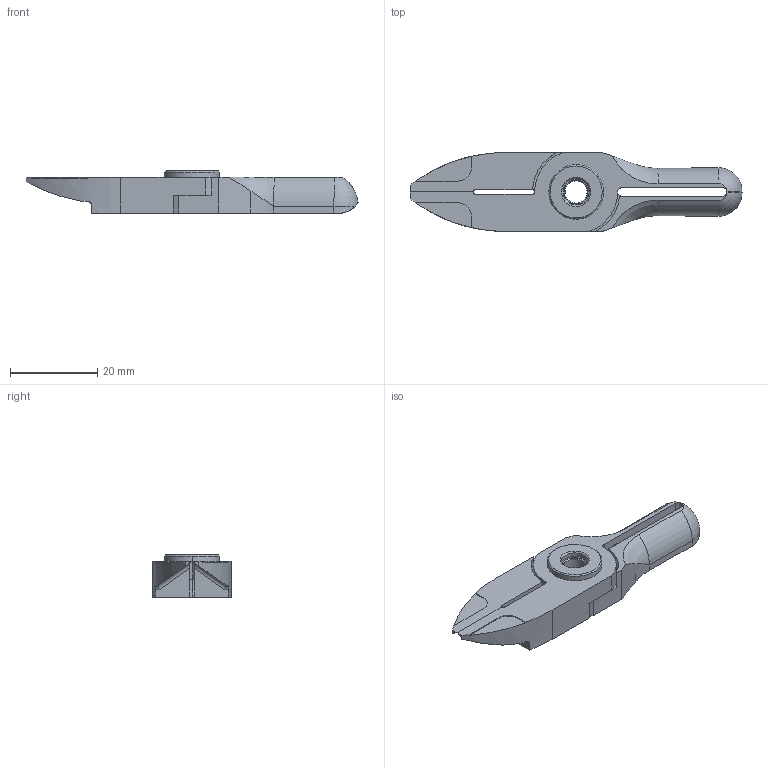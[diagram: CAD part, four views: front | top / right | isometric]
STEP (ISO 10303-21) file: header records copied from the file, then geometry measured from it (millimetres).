
FILE_DESCRIPTION (( 'STEP AP214' ), '1' );
FILE_NAME ('NY15AJL.STEP', '2019-11-28T03:32:13', ( '微软用户' ), ( '微软中国' ), 'SwSTEP 2.0', 'SolidWorks 2016', '' );
FILE_SCHEMA (( 'AUTOMOTIVE_DESIGN' ));
Length unit declared in the file: millimetre
Products named in the file (1): NY15AJL
Bounding box: 75.94 x 18 x 9.7 mm (x, y, z)
Surface area: 5377.8 mm2 (no closed solid volume)
Topology: 0 solids, 3 shells, 125 faces, 339 edges, 213 vertices
Faces by surface type: cylinder 52, plane 41, cone 22, torus 8, bspline 2
Entity records: 4209 total; most frequent: CARTESIAN_POINT 1028, DIRECTION 680, ORIENTED_EDGE 648, EDGE_CURVE 335, AXIS2_PLACEMENT_3D 260, VERTEX_POINT 213, LINE 160, VECTOR 160
